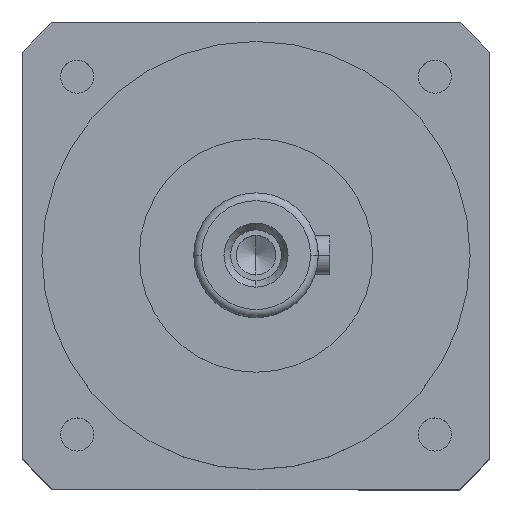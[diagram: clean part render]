
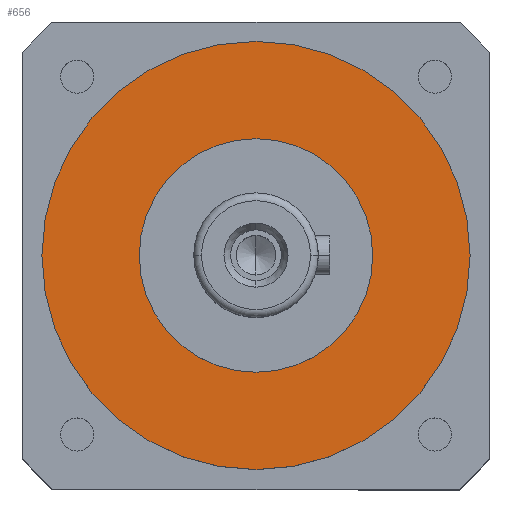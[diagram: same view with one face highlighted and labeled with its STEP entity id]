
A CAD part, top view. The second image highlights one B-rep face of the part: STEP entity #656.
In plain terms, the highlighted planar face has unit normal (0, 0, 1).
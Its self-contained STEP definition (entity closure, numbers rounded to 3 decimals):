
#200 = DIRECTION ( 'NONE',  ( 1., 0., 0. ) ) ;
#243 = CIRCLE ( 'NONE', #43253, 30. ) ;
#656 = ADVANCED_FACE ( 'NONE', ( #18486, #35388 ), #34817, .F. ) ;
#900 = CIRCLE ( 'NONE', #2594, 55. ) ;
#2594 = AXIS2_PLACEMENT_3D ( 'NONE', #24280, #4045, #27683 ) ;
#3376 = AXIS2_PLACEMENT_3D ( 'NONE', #28020, #14547, #38184 ) ;
#3682 = DIRECTION ( 'NONE',  ( 0., 0., -1. ) ) ;
#4045 = DIRECTION ( 'NONE',  ( 0., 0., -1. ) ) ;
#4415 = EDGE_CURVE ( 'NONE', #33410, #37445, #900, .T. ) ;
#5863 = ORIENTED_EDGE ( 'NONE', *, *, #33300, .F. ) ;
#6555 = EDGE_LOOP ( 'NONE', ( #29204, #31384 ) ) ;
#7887 = CARTESIAN_POINT ( 'NONE',  ( -30., 0., -52. ) ) ;
#8171 = DIRECTION ( 'NONE',  ( 0., 0., 1. ) ) ;
#9948 = EDGE_CURVE ( 'NONE', #40711, #34550, #17148, .T. ) ;
#12059 = EDGE_LOOP ( 'NONE', ( #5863, #16727 ) ) ;
#14136 = CARTESIAN_POINT ( 'NONE',  ( -55., 0., -52. ) ) ;
#14547 = DIRECTION ( 'NONE',  ( 0., 0., -1. ) ) ;
#16727 = ORIENTED_EDGE ( 'NONE', *, *, #4415, .F. ) ;
#17148 = CIRCLE ( 'NONE', #18101, 30. ) ;
#18101 = AXIS2_PLACEMENT_3D ( 'NONE', #28402, #8171, #31803 ) ;
#18486 = FACE_BOUND ( 'NONE', #6555, .T. ) ;
#19524 = CARTESIAN_POINT ( 'NONE',  ( 30., 0., -52. ) ) ;
#20477 = DIRECTION ( 'NONE',  ( 0., 0., 1. ) ) ;
#23112 = AXIS2_PLACEMENT_3D ( 'NONE', #23919, #3682, #27319 ) ;
#23919 = CARTESIAN_POINT ( 'NONE',  ( 0., 0., -52. ) ) ;
#24280 = CARTESIAN_POINT ( 'NONE',  ( 0., 0., -52. ) ) ;
#27319 = DIRECTION ( 'NONE',  ( 1., 0., 0. ) ) ;
#27683 = DIRECTION ( 'NONE',  ( 1., 0., 0. ) ) ;
#28020 = CARTESIAN_POINT ( 'NONE',  ( 0., 30., -52. ) ) ;
#28402 = CARTESIAN_POINT ( 'NONE',  ( 0., 0., -52. ) ) ;
#29204 = ORIENTED_EDGE ( 'NONE', *, *, #37791, .F. ) ;
#31384 = ORIENTED_EDGE ( 'NONE', *, *, #9948, .F. ) ;
#31803 = DIRECTION ( 'NONE',  ( 1., 0., 0. ) ) ;
#33300 = EDGE_CURVE ( 'NONE', #37445, #33410, #35834, .T. ) ;
#33410 = VERTEX_POINT ( 'NONE', #14136 ) ;
#34550 = VERTEX_POINT ( 'NONE', #19524 ) ;
#34817 = PLANE ( 'NONE',  #3376 ) ;
#35388 = FACE_OUTER_BOUND ( 'NONE', #12059, .T. ) ;
#35689 = CARTESIAN_POINT ( 'NONE',  ( 55., 0., -52. ) ) ;
#35834 = CIRCLE ( 'NONE', #23112, 55. ) ;
#37445 = VERTEX_POINT ( 'NONE', #35689 ) ;
#37791 = EDGE_CURVE ( 'NONE', #34550, #40711, #243, .T. ) ;
#38184 = DIRECTION ( 'NONE',  ( -1., 0., 0. ) ) ;
#40651 = CARTESIAN_POINT ( 'NONE',  ( 0., 0., -52. ) ) ;
#40711 = VERTEX_POINT ( 'NONE', #7887 ) ;
#43253 = AXIS2_PLACEMENT_3D ( 'NONE', #40651, #20477, #200 ) ;
